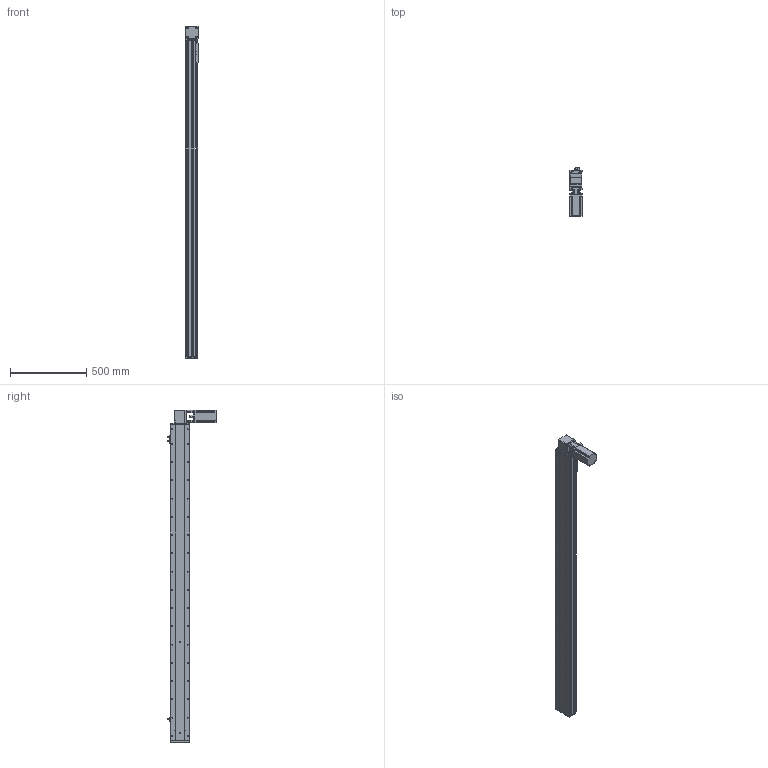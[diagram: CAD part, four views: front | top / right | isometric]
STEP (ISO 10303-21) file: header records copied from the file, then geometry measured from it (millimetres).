
FILE_DESCRIPTION (( 'STEP AP214' ), '1' );
FILE_NAME ('KSD130B-S1850-MRT-CM.STEP', '2019-11-16T05:23:05', ( '微软用户' ), ( '微软中国' ), 'SwSTEP 2.0', 'SolidWorks 2014', '' );
FILE_SCHEMA (( 'AUTOMOTIVE_DESIGN' ));
Length unit declared in the file: millimetre
Products named in the file (12): 130宽马达安装板同步带半封闭; 130宽同步带安装座半封闭; 130宽端盖同步带半封闭; 130宽底板半封闭同步带-1850行程; KSD130B-S1850-MRT-CM; 台达ECMA－C20807AS伺服电机; 130宽马达安装板1-带电机座750W（1）; 覜茼え100遵圉猾敕; U倰嫖萇EEㄜSX672; 130宽安装板同步带带电机座750W; 130宽盖板半封闭同步带-1850行程; 130宽马达安装板同步带左-改
Assembly tree (13 placements, depth 2):
  KSD130B-S1850-MRT-CM
    130宽底板半封闭同步带-1850行程
    130宽端盖同步带半封闭
    130宽同步带安装座半封闭
    130宽马达安装板同步带半封闭
    130宽马达安装板同步带左-改
    130宽盖板半封闭同步带-1850行程
    130宽安装板同步带带电机座750W
    U倰嫖萇EEㄜSX672  x3
    覜茼え100遵圉猾敕
    130宽马达安装板1-带电机座750W（1）
    台达ECMA－C20807AS伺服电机
Bounding box: 81 x 316 x 2183 mm (x, y, z)
Volume: 7256127.9 mm3; surface area: 2016474.3 mm2
Topology: 14 solids, 14 shells, 1739 faces, 5072 edges, 3211 vertices
Faces by surface type: cylinder 865, plane 637, cone 237
Entity records: 59555 total; most frequent: CARTESIAN_POINT 11601, DIRECTION 8958, ORIENTED_EDGE 8668, EDGE_CURVE 4334, AXIS2_PLACEMENT_3D 3320, VERTEX_POINT 2835, VECTOR 2318, LINE 2318
